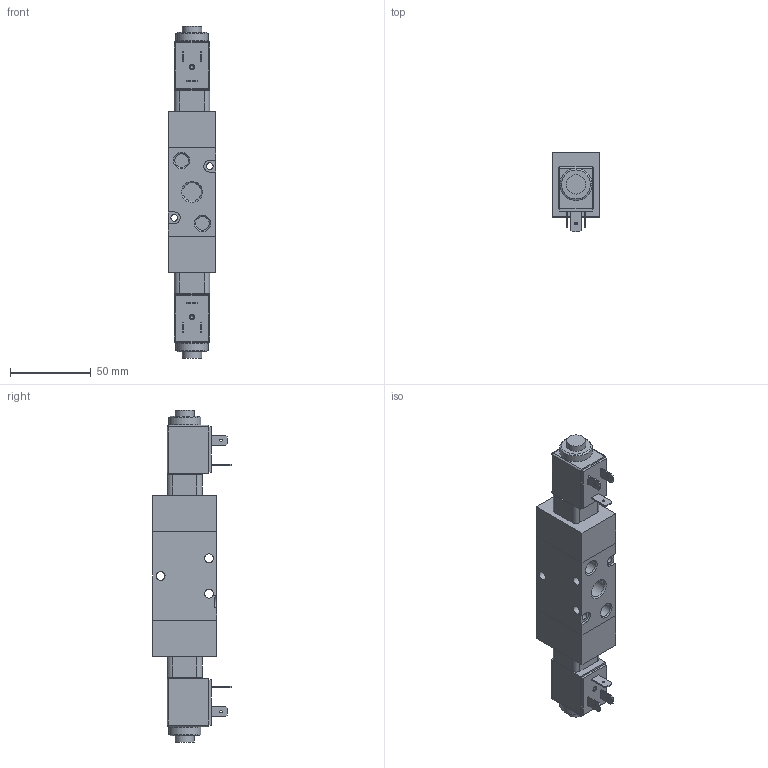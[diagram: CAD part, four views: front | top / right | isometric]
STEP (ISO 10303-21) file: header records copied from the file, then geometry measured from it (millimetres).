
FILE_DESCRIPTION(/* description */ (''),/* implementation_level */ '2;1');
FILE_NAME(/* name */ 'I:\Area Tecnica\Disegni\VARIE-3D\Componenti\T400\T424\T424_32_0_0_E_B#.stp',/* time_stamp */ '2015-09-23T13:45:51+02:00',/* author */ ('maniean1'),/* organization */ ('Pneumax S.p.A.'),/* preprocessor_version */ 'ST-DEVELOPER v15.2',/* originating_system */ 'Autodesk Inventor 2014',/* authorisation */ '');
FILE_SCHEMA (('AUTOMOTIVE_DESIGN { 1 0 10303 214 3 1 1 }'));
Length unit declared in the file: millimetre
Products named in the file (3): T424_32_0_0_E_M2; MB; T424_32_0_0_E_B#
Bounding box: 29.5 x 49 x 206 mm (x, y, z)
Volume: 163233.8 mm3; surface area: 42665.5 mm2
Topology: 11 solids, 11 shells, 208 faces, 450 edges, 291 vertices
Faces by surface type: plane 131, cylinder 62, cone 11, sphere 4
Full cylindrical faces by diameter (mm): 1.5 x4, 1.6 x2, 2.156 x2, 4.25 x2, 5.5 x3, 7.4 x2, 8 x2, 8.2 x4, 8.566 x2, 9.8 x2, 10.1 x2, 10.2 x2, 11.445 x3, 12 x2, 13 x2, 13.5 x2, 16.2 x2, 20 x2
Entity records: 4167 total; most frequent: DIRECTION 715, CARTESIAN_POINT 653, ORIENTED_EDGE 558, EDGE_CURVE 279, AXIS2_PLACEMENT_3D 272, EDGE_LOOP 245, VERTEX_POINT 210, LINE 171
